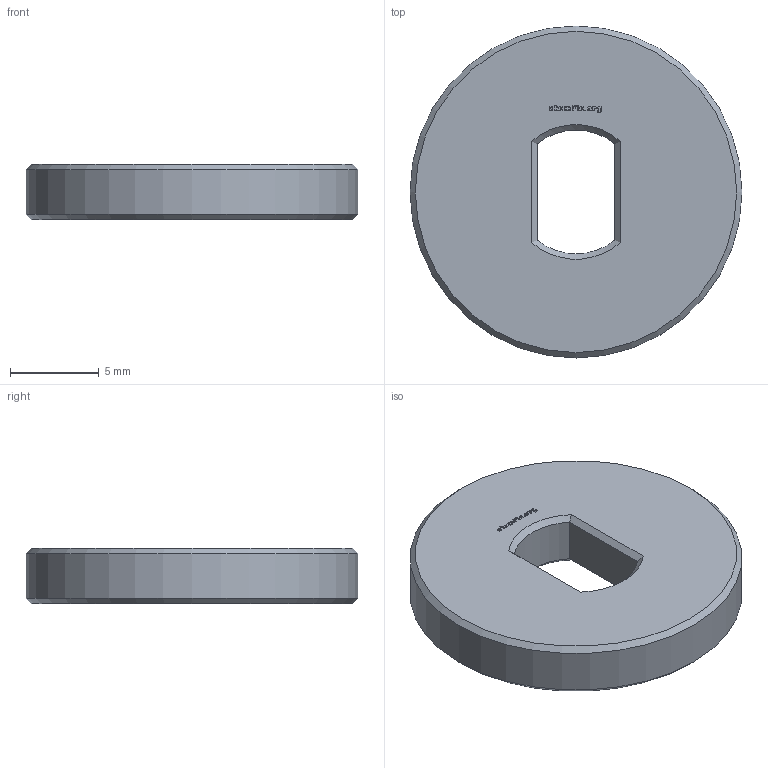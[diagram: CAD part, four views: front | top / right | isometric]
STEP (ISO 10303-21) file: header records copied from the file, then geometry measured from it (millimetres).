
FILE_DESCRIPTION(/* description */ (''),/* implementation_level */ '2;1');
FILE_NAME(/* name */ '/Users/paulokiefe/Desktop/STEMFIE/Fasteners/Washers/Fixed/Washer WSR FXD BU0.25x1.50 - SPN-WSR-0003 v1.step',/* time_stamp */ '2020-09-27T23:11:46+02:00',/* author */ (''),/* organization */ (''),/* preprocessor_version */ 'ST-DEVELOPER v18.1',/* originating_system */ 'Autodesk Translation Framework v9.3.0.1241',/* authorisation */ '');
FILE_SCHEMA (('AUTOMOTIVE_DESIGN { 1 0 10303 214 3 1 1 }'));
Length unit declared in the file: millimetre
Products named in the file (1): Washer WSR FXD BU0.25x1.50 - SPN-WSR-0003
Bounding box: 18.75 x 18.75 x 3.12 mm (x, y, z)
Volume: 766.2 mm3; surface area: 715.6 mm2
Topology: 1 solids, 1 shells, 261 faces, 731 edges, 484 vertices
Faces by surface type: plane 252, cone 6, cylinder 3
Full cylindrical faces by diameter (mm): 18.75 x1
Entity records: 8262 total; most frequent: CARTESIAN_POINT 1501, ORIENTED_EDGE 1462, DIRECTION 1259, EDGE_CURVE 731, LINE 711, VECTOR 711, VERTEX_POINT 484, EDGE_LOOP 275
